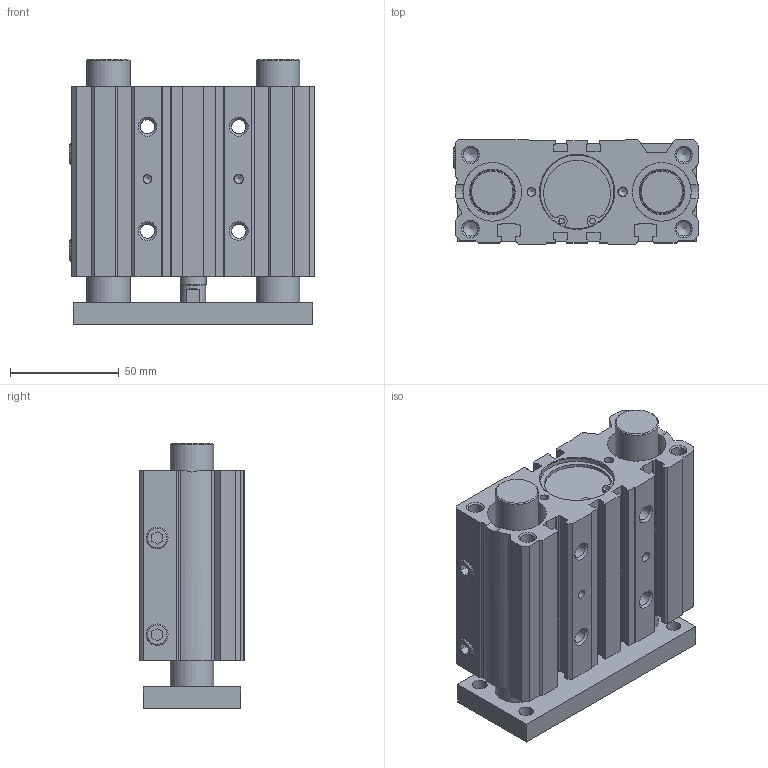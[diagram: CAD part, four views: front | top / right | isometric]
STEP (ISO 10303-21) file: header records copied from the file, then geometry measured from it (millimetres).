
FILE_DESCRIPTION(/* description */ ('Unknown'),/* implementation_level */ '2;1');
FILE_NAME(/* name */ 'EDMTD 32_25',/* time_stamp */ '2025-02-07T08:43:44+01:00',/* author */ ('Unknown'),/* organization */ ('HAFNER Pneumatika Kft'),/* preprocessor_version */ 'ST-DEVELOPER v16.7',/* originating_system */ 'Solid Edge',/* authorisation */ 'Unknown');
FILE_SCHEMA (('AUTOMOTIVE_DESIGN {1 0 10303 214 3 1 1}'));
Length unit declared in the file: millimetre
Products named in the file (3): EDMTD 32_25; Platte; Gehäuse
Assembly tree (2 placements, depth 2):
  EDMTD 32_25
    Platte
    Gehäuse
Bounding box: 113 x 48 x 122 mm (x, y, z)
Volume: 440999.1 mm3; surface area: 108461 mm2
Topology: 2 solids, 9 shells, 437 faces, 1113 edges, 732 vertices
Faces by surface type: plane 216, cylinder 155, cone 53, torus 13
Full cylindrical faces by diameter (mm): 1.8 x2, 2.5 x4, 2.65 x2, 3.5 x2, 4 x8, 4.5 x2, 6 x1, 6.5 x5, 6.647 x16, 8 x2, 8.5 x2, 8.566 x3, 10 x3, 10.5 x1, 11 x4, 11.5 x1, 12 x2, 12.72 x1, 13 x2, 13.5 x2, 13.7 x1, 16.5 x2, 17 x1, 20 x2, 21 x2, 25.2 x2, 27 x2, 28 x2, 32 x2, 33.9 x2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
Entity records: 15045 total; most frequent: DIRECTION 2106, CARTESIAN_POINT 2098, ORIENTED_EDGE 1772, EDGE_CURVE 886, AXIS2_PLACEMENT_3D 815, FACE_BOUND 675, VERTEX_POINT 667, EDGE_LOOP 664
